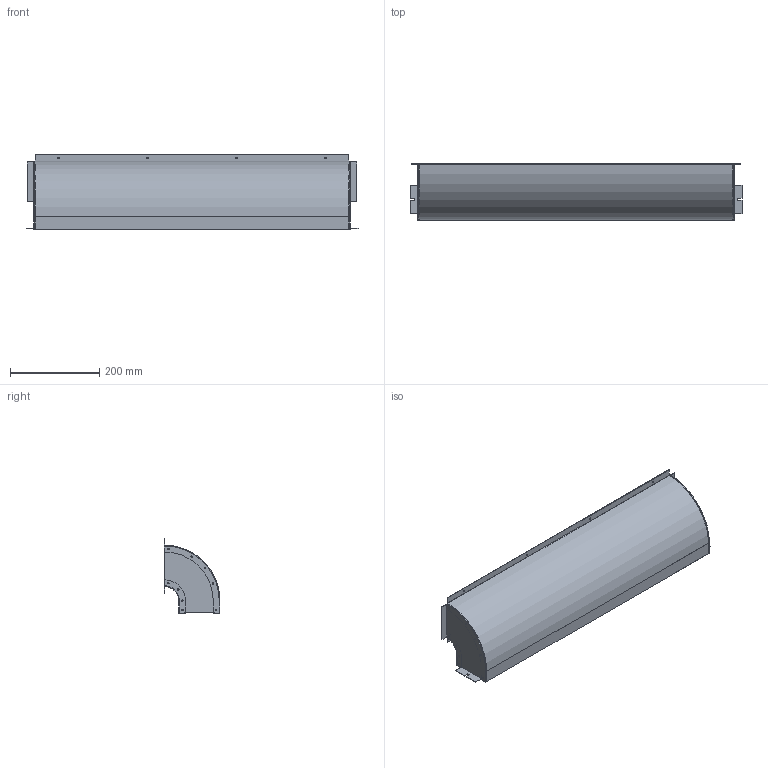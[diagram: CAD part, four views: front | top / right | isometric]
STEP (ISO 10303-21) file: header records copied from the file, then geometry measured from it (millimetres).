
FILE_DESCRIPTION(('Creo Elements/Direct Modeling STEP Export'),'2;1');
FILE_NAME('N213051B-55B-01.stp','2013-08-09T12:09:26',(''),(''),'Creo Elements/Direct Modeling STEP processor for AP214 (Solid Model)','Creo Elements/Direct Modeling 17.0F 20-Aug-2012 (C) Parametric Technology GmbH','');
FILE_SCHEMA(('AUTOMOTIVE_DESIGN { 1 0 10303 214 1 1 1 1 }'));
Length unit declared in the file: millimetre
Products named in the file (5): N213058B_MANDATA_ARIA_90°.2.1; N213058B_MANDATA_ARIA_90°.1; N213058B_MANDATA_ARIA_90°; N213058B_MANDATA_ARIA_90°.1.1; B0167_KIT_PLENUM_90°
Assembly tree (4 placements, depth 2):
  B0167_KIT_PLENUM_90°
    N213058B_MANDATA_ARIA_90°.1.1
    N213058B_MANDATA_ARIA_90°
    N213058B_MANDATA_ARIA_90°.1
    N213058B_MANDATA_ARIA_90°.2.1
Bounding box: 745.4 x 125.7 x 168.3 mm (x, y, z)
Volume: 332584.5 mm3; surface area: 560585.1 mm2
Topology: 4 solids, 4 shells, 208 faces, 584 edges, 384 vertices
Faces by surface type: cylinder 116, plane 84, torus 8
Entity records: 7163 total; most frequent: CARTESIAN_POINT 1649, ORIENTED_EDGE 1168, DIRECTION 1050, EDGE_CURVE 584, VERTEX_POINT 384, AXIS2_PLACEMENT_3D 363, VECTOR 324, LINE 324
